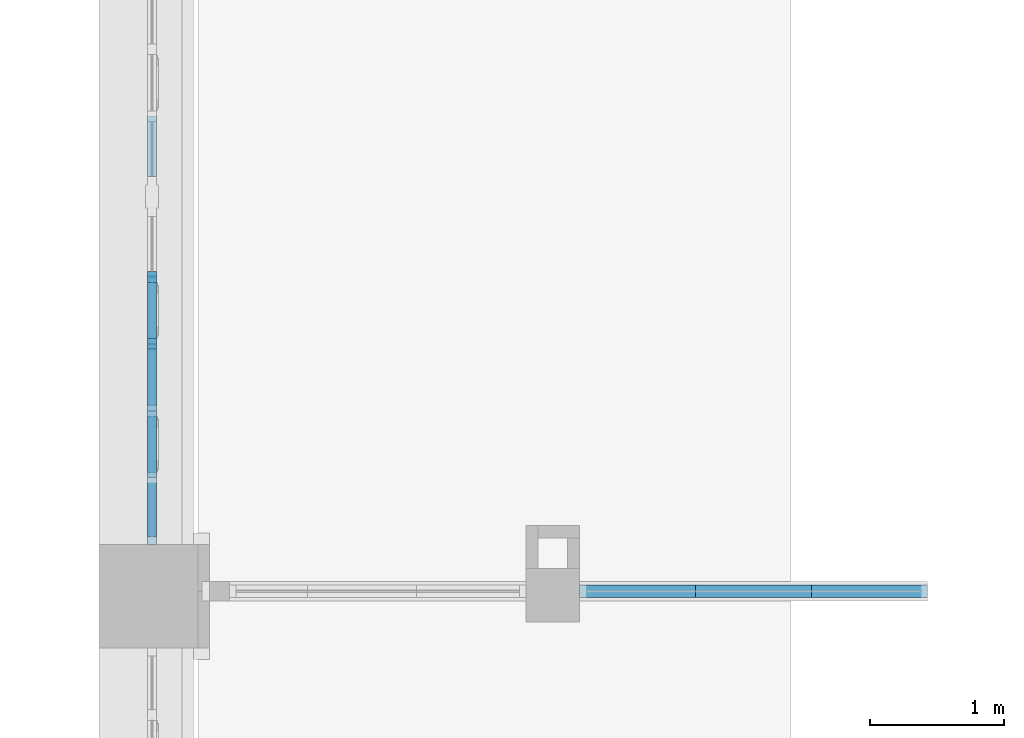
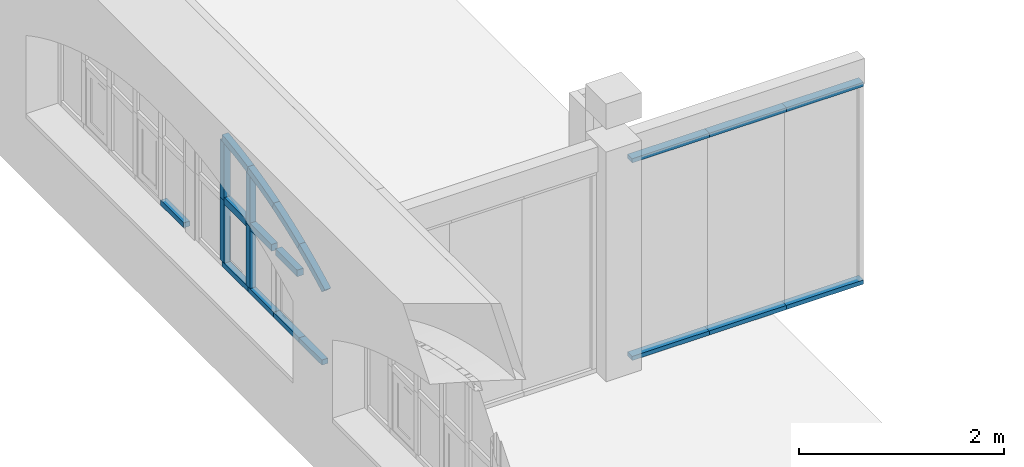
# One storey, part 7 of 32: 22 members, 2 elements without a shape of their own.
"""IFC2X3 building model written with IfcOpenShell, lengths in millimetres."""

from ifc_helpers import new_model, entity, si_unit, converted_unit, derived_unit, direction, frame, frame_2d, origin, place, context, subcontext, project, spatial, polyline, circle_curve, parameter, trimmed, segment, composite_curve, rectangle, outline, extrude, source, transform, mapped, material, type_object, type_shapes, element, aggregate, save


model = new_model("IFC2X3")

# Units and contexts
model_context = context("Model", 3, precision=0.01, world=origin(), true_north=direction((6.123031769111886e-17, 1.0)))
body_context = subcontext(model_context, "Body", "Model", "MODEL_VIEW")
ifc_project = project(units=[si_unit("LENGTHUNIT", "METRE", prefix="MILLI"), si_unit("AREAUNIT", "SQUARE_METRE"), si_unit("VOLUMEUNIT", "CUBIC_METRE"), converted_unit("PLANEANGLEUNIT", "DEGREE", entity("IfcPlaneAngleMeasure", 0.017453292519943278), si_unit("PLANEANGLEUNIT", "RADIAN"), dimensions=[0, 0, 0, 0, 0, 0, 0]), si_unit("MASSUNIT", "GRAM", prefix="KILO"), derived_unit("MASSDENSITYUNIT", [(si_unit("MASSUNIT", "GRAM", prefix="KILO"), 1), (si_unit("LENGTHUNIT", "METRE"), -3)]), derived_unit("IONCONCENTRATIONUNIT", [(si_unit("MASSUNIT", "GRAM", prefix="KILO"), 1), (si_unit("LENGTHUNIT", "METRE"), -3)]), derived_unit("MOMENTOFINERTIAUNIT", [(si_unit("LENGTHUNIT", "METRE"), 4)]), si_unit("TIMEUNIT", "SECOND"), si_unit("FREQUENCYUNIT", "HERTZ"), si_unit("THERMODYNAMICTEMPERATUREUNIT", "DEGREE_CELSIUS"), derived_unit("THERMALTRANSMITTANCEUNIT", [(si_unit("MASSUNIT", "GRAM", prefix="KILO"), 1), (si_unit("THERMODYNAMICTEMPERATUREUNIT", "KELVIN"), -1), (si_unit("TIMEUNIT", "SECOND"), -3)]), derived_unit("THERMALCONDUCTANCEUNIT", [(si_unit("MASSUNIT", "GRAM", prefix="KILO"), 1), (si_unit("THERMODYNAMICTEMPERATUREUNIT", "KELVIN"), -1), (si_unit("TIMEUNIT", "SECOND"), -3), (si_unit("LENGTHUNIT", "METRE"), 1)]), derived_unit("VOLUMETRICFLOWRATEUNIT", [(si_unit("LENGTHUNIT", "METRE", prefix="DECI"), 3), (si_unit("TIMEUNIT", "SECOND"), -1)]), derived_unit("MASSFLOWRATEUNIT", [(si_unit("MASSUNIT", "GRAM", prefix="KILO"), 1), (si_unit("TIMEUNIT", "SECOND"), -1)]), derived_unit("ROTATIONALFREQUENCYUNIT", [(si_unit("TIMEUNIT", "SECOND"), -1)]), si_unit("ELECTRICCURRENTUNIT", "AMPERE"), si_unit("ELECTRICVOLTAGEUNIT", "VOLT"), si_unit("POWERUNIT", "WATT"), si_unit("FORCEUNIT", "NEWTON", prefix="KILO"), si_unit("ILLUMINANCEUNIT", "LUX"), si_unit("LUMINOUSFLUXUNIT", "LUMEN"), si_unit("LUMINOUSINTENSITYUNIT", "CANDELA"), si_unit("ENERGYUNIT", "JOULE"), derived_unit("USERDEFINED", [(si_unit("MASSUNIT", "GRAM", prefix="KILO"), -1), (si_unit("LENGTHUNIT", "METRE"), -2), (si_unit("TIMEUNIT", "SECOND"), 3), (si_unit("LUMINOUSFLUXUNIT", "LUMEN"), 1)]), derived_unit("USERDEFINED", [(si_unit("MASSUNIT", "GRAM", prefix="KILO"), 1), (si_unit("TIMEUNIT", "SECOND"), -3), (si_unit("LENGTHUNIT", "METRE"), 3), (si_unit("ELECTRICCURRENTUNIT", "AMPERE"), -2)]), derived_unit("SOUNDPOWERUNIT", [(si_unit("MASSUNIT", "GRAM", prefix="KILO"), 1), (si_unit("TIMEUNIT", "SECOND"), -3), (si_unit("LENGTHUNIT", "METRE"), 2)]), derived_unit("SOUNDPRESSUREUNIT", [(si_unit("MASSUNIT", "GRAM", prefix="KILO"), 1), (si_unit("LENGTHUNIT", "METRE"), -1), (si_unit("TIMEUNIT", "SECOND"), -2)]), derived_unit("LINEARVELOCITYUNIT", [(si_unit("LENGTHUNIT", "METRE"), 1), (si_unit("TIMEUNIT", "SECOND"), -1)]), si_unit("PRESSUREUNIT", "PASCAL"), derived_unit("USERDEFINED", [(si_unit("MASSUNIT", "GRAM", prefix="KILO"), 1), (si_unit("LENGTHUNIT", "METRE"), -2), (si_unit("TIMEUNIT", "SECOND"), -2)]), derived_unit("LINEARFORCEUNIT", [(si_unit("MASSUNIT", "GRAM", prefix="KILO"), 1), (si_unit("TIMEUNIT", "SECOND"), -2)]), derived_unit("PLANARFORCEUNIT", [(si_unit("MASSUNIT", "GRAM", prefix="KILO"), 1), (si_unit("LENGTHUNIT", "METRE"), -1), (si_unit("TIMEUNIT", "SECOND"), -2)]), derived_unit("SPECIFICHEATCAPACITYUNIT", [(si_unit("THERMODYNAMICTEMPERATUREUNIT", "KELVIN"), -1), (si_unit("LENGTHUNIT", "METRE"), 2), (si_unit("TIMEUNIT", "SECOND"), -2)]), derived_unit("HEATFLUXDENSITYUNIT", [(si_unit("MASSUNIT", "GRAM", prefix="KILO"), 1), (si_unit("TIMEUNIT", "SECOND"), -3)]), derived_unit("HEATINGVALUEUNIT", [(si_unit("LENGTHUNIT", "METRE"), 2), (si_unit("TIMEUNIT", "SECOND"), -2)]), derived_unit("VAPORPERMEABILITYUNIT", [(si_unit("LENGTHUNIT", "METRE"), -1), (si_unit("TIMEUNIT", "SECOND"), 1)]), derived_unit("DYNAMICVISCOSITYUNIT", [(si_unit("MASSUNIT", "GRAM", prefix="KILO"), 1), (si_unit("TIMEUNIT", "SECOND"), -1), (si_unit("LENGTHUNIT", "METRE"), -1)]), derived_unit("THERMALEXPANSIONCOEFFICIENTUNIT", [(si_unit("THERMODYNAMICTEMPERATUREUNIT", "KELVIN"), -1)]), derived_unit("MODULUSOFELASTICITYUNIT", [(si_unit("MASSUNIT", "GRAM", prefix="KILO"), 1), (si_unit("LENGTHUNIT", "METRE"), -1), (si_unit("TIMEUNIT", "SECOND"), -2)]), derived_unit("ISOTHERMALMOISTURECAPACITYUNIT", [(si_unit("MASSUNIT", "GRAM", prefix="KILO"), -1), (si_unit("LENGTHUNIT", "METRE"), 3)]), derived_unit("MOISTUREDIFFUSIVITYUNIT", [(si_unit("TIMEUNIT", "SECOND"), -1), (si_unit("LENGTHUNIT", "METRE"), 2)]), derived_unit("MASSPERLENGTHUNIT", [(si_unit("MASSUNIT", "GRAM", prefix="KILO"), 1), (si_unit("LENGTHUNIT", "METRE"), -1)]), derived_unit("THERMALRESISTANCEUNIT", [(si_unit("MASSUNIT", "GRAM", prefix="KILO"), -1), (si_unit("TIMEUNIT", "SECOND"), 3), (si_unit("THERMODYNAMICTEMPERATUREUNIT", "KELVIN"), 1)]), derived_unit("ACCELERATIONUNIT", [(si_unit("LENGTHUNIT", "METRE"), 1), (si_unit("TIMEUNIT", "SECOND"), -2)]), derived_unit("ANGULARVELOCITYUNIT", [(si_unit("TIMEUNIT", "SECOND"), -1), (si_unit("PLANEANGLEUNIT", "RADIAN"), 1)]), derived_unit("LINEARSTIFFNESSUNIT", [(si_unit("MASSUNIT", "GRAM", prefix="KILO"), 1), (si_unit("TIMEUNIT", "SECOND"), -2)]), derived_unit("WARPINGCONSTANTUNIT", [(si_unit("LENGTHUNIT", "METRE"), 6)]), derived_unit("LINEARMOMENTUNIT", [(si_unit("MASSUNIT", "GRAM", prefix="KILO"), 1), (si_unit("LENGTHUNIT", "METRE"), 1), (si_unit("TIMEUNIT", "SECOND"), -2)]), derived_unit("TORQUEUNIT", [(si_unit("MASSUNIT", "GRAM", prefix="KILO"), 1), (si_unit("LENGTHUNIT", "METRE"), 2), (si_unit("TIMEUNIT", "SECOND"), -2)])], contexts=[model_context])

# Site, building, storey
site_placement = place(None, origin())
site = spatial("IfcSite", under=ifc_project, at=site_placement, Name="Default", CompositionType="ELEMENT")
building_placement = place(site_placement, origin())
building = spatial("IfcBuilding", under=site, at=building_placement, Name="Eesti Rahvusraamatukogu hoone renoveerimise projekteerimistööd", CompositionType="ELEMENT")
storey_placement = place(building_placement, frame((0.0, 0.0, 4950.000000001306)))
storey = spatial("IfcBuildingStorey", under=building, at=storey_placement, Name="2. korrus", CompositionType="ELEMENT", Elevation=4950.000000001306)

# Curtain wall, members
curtain_wall_type_1 = type_object("IfcCurtainWallType", Name="Curtain Wall:VLS Klaasvahesein profiilita 38db", PredefinedType="NOTDEFINED")
curtain_wall_1_placement = place(storey_placement, frame((0.0, 0.0, -4950.000000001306)))
curtain_wall_1 = element("IfcCurtainWall", 1, at=curtain_wall_1_placement, inside=storey, type_object=curtain_wall_type_1, Name="Curtain Wall:VLS Klaasvahesein profiilita 38db", ObjectType="Curtain Wall:VLS Klaasvahesein profiilita 38db")
ifc_material_1 = material(Name="Aluminum")
member_type_1 = type_object("IfcMemberType", Name="Rectangular Mullion:50mm x 92mm", PredefinedType="MULLION", material=ifc_material_1)
shared_shape_1 = source(origin(), body_context, "Body", "SweptSolid", [
    extrude(rectangle(XDim=50.0, YDim=92.0, at=frame_2d((0.0, 3.552713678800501e-15), x_axis=(1.0, 0.0))), frame((-25.0, 0.0, -866.6666667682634), z_axis=(0.0, 0.0, 1.0), x_axis=(-1.0, 0.0, 0.0)), (0.0, 0.0, 1.0), 866.6666667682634),
])
type_shapes(member_type_1, [shared_shape_1])
member_1_placement = place(curtain_wall_1_placement, frame((-30590.0, 12420.0, 7350.0), z_axis=(1.0, 0.0, 0.0), x_axis=(0.0, 0.0, 1.0)))
member_1 = element("IfcMember", 2, at=member_1_placement, type_object=member_type_1, material=ifc_material_1, Name="Rectangular Mullion:50mm x 92mm", ObjectType="Rectangular Mullion:50mm x 92mm", context=body_context, shape_type="MappedRepresentation", body=[
    mapped(shared_shape_1, transform((0.0, 0.0, 0.0), scale=1.0)),
])
member_type_2 = type_object("IfcMemberType", Name="Rectangular Mullion:50mm x 92mm", PredefinedType="MULLION", material=ifc_material_1)
shared_shape_2 = source(origin(), body_context, "Body", "SweptSolid", [
    extrude(rectangle(XDim=50.0, YDim=92.0, at=frame_2d((0.0, 3.552713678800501e-15), x_axis=(1.0, 0.0))), frame((-25.0, 0.0, -866.6666667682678), z_axis=(0.0, 0.0, 1.0), x_axis=(-1.0, 0.0, 0.0)), (0.0, 0.0, 1.0), 866.6666667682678),
])
type_shapes(member_type_2, [shared_shape_2])
member_2_placement = place(curtain_wall_1_placement, frame((-32323.333333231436, 12420.0, 7350.0), z_axis=(1.0, 0.0, 0.0), x_axis=(0.0, 0.0, 1.0)))
member_2 = element("IfcMember", 3, at=member_2_placement, type_object=member_type_2, material=ifc_material_1, Name="Rectangular Mullion:50mm x 92mm", ObjectType="Rectangular Mullion:50mm x 92mm", context=body_context, shape_type="MappedRepresentation", body=[
    mapped(shared_shape_2, transform((0.0, 0.0, 0.0), scale=1.0)),
])
member_type_3 = type_object("IfcMemberType", Name="Rectangular Mullion:50mm x 92mm", PredefinedType="MULLION", material=ifc_material_1)
shared_shape_3 = source(origin(), body_context, "Body", "SweptSolid", [
    extrude(rectangle(XDim=50.0, YDim=92.0, at=frame_2d((0.0, 3.552713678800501e-15), x_axis=(1.0, 0.0))), frame((-25.0, 0.0, -866.6666664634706), z_axis=(0.0, 0.0, 1.0), x_axis=(-1.0, 0.0, 0.0)), (0.0, 0.0, 1.0), 866.6666664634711),
])
type_shapes(member_type_3, [shared_shape_3])
member_3_placement = place(curtain_wall_1_placement, frame((-31456.666666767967, 12420.0, 7350.0), z_axis=(1.0, 0.0, 0.0), x_axis=(0.0, 0.0, 1.0)))
member_3 = element("IfcMember", 4, at=member_3_placement, type_object=member_type_3, material=ifc_material_1, Name="Rectangular Mullion:50mm x 92mm", ObjectType="Rectangular Mullion:50mm x 92mm", context=body_context, shape_type="MappedRepresentation", body=[
    mapped(shared_shape_3, transform((0.0, 0.0, 0.0), scale=1.0)),
])
member_type_4 = type_object("IfcMemberType", Name="Rectangular Mullion:50mm x 92mm", PredefinedType="MULLION", material=ifc_material_1)
shared_shape_4 = source(origin(), body_context, "Body", "SweptSolid", [
    extrude(rectangle(XDim=50.0, YDim=92.0, at=frame_2d((0.0, 3.552713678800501e-15), x_axis=(1.0, 0.0))), frame((-25.0, 0.0, -866.6666667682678), z_axis=(0.0, 0.0, 1.0), x_axis=(-1.0, 0.0, 0.0)), (0.0, 0.0, 1.0), 866.6666667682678),
])
type_shapes(member_type_4, [shared_shape_4])
member_4_placement = place(curtain_wall_1_placement, frame((-33190.0, 12420.0, 4950.0), z_axis=(-1.0, 0.0, 0.0), x_axis=(0.0, 0.0, -1.0)))
member_4 = element("IfcMember", 5, at=member_4_placement, type_object=member_type_4, material=ifc_material_1, Name="Rectangular Mullion:50mm x 92mm", ObjectType="Rectangular Mullion:50mm x 92mm", context=body_context, shape_type="MappedRepresentation", body=[
    mapped(shared_shape_4, transform((0.0, 0.0, 0.0), scale=1.0)),
])
member_type_5 = type_object("IfcMemberType", Name="Rectangular Mullion:50mm x 92mm", PredefinedType="MULLION", material=ifc_material_1)
shared_shape_5 = source(origin(), body_context, "Body", "SweptSolid", [
    extrude(rectangle(XDim=50.0, YDim=92.0, at=frame_2d((0.0, 3.552713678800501e-15), x_axis=(1.0, 0.0))), frame((-25.0, 0.0, -866.6666664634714), z_axis=(0.0, 0.0, 1.0), x_axis=(-1.0, 0.0, 0.0)), (0.0, 0.0, 1.0), 866.6666664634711),
])
type_shapes(member_type_5, [shared_shape_5])
member_5_placement = place(curtain_wall_1_placement, frame((-32323.333333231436, 12420.0, 4950.0), z_axis=(-1.0, 0.0, 0.0), x_axis=(0.0, 0.0, -1.0)))
member_5 = element("IfcMember", 6, at=member_5_placement, type_object=member_type_5, material=ifc_material_1, Name="Rectangular Mullion:50mm x 92mm", ObjectType="Rectangular Mullion:50mm x 92mm", context=body_context, shape_type="MappedRepresentation", body=[
    mapped(shared_shape_5, transform((0.0, 0.0, 0.0), scale=1.0)),
])
member_type_6 = type_object("IfcMemberType", Name="Rectangular Mullion:50mm x 92mm", PredefinedType="MULLION", material=ifc_material_1)
shared_shape_6 = source(origin(), body_context, "Body", "SweptSolid", [
    extrude(rectangle(XDim=50.0, YDim=92.0, at=frame_2d((0.0, 3.552713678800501e-15), x_axis=(1.0, 0.0))), frame((-25.0, 0.0, -866.6666667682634), z_axis=(0.0, 0.0, 1.0), x_axis=(-1.0, 0.0, 0.0)), (0.0, 0.0, 1.0), 866.6666667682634),
])
type_shapes(member_type_6, [shared_shape_6])
member_6_placement = place(curtain_wall_1_placement, frame((-31456.666666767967, 12420.0, 4950.0), z_axis=(-1.0, 0.0, 0.0), x_axis=(0.0, 0.0, -1.0)))
member_6 = element("IfcMember", 7, at=member_6_placement, type_object=member_type_6, material=ifc_material_1, Name="Rectangular Mullion:50mm x 92mm", ObjectType="Rectangular Mullion:50mm x 92mm", context=body_context, shape_type="MappedRepresentation", body=[
    mapped(shared_shape_6, transform((0.0, 0.0, 0.0), scale=1.0)),
])
aggregate(curtain_wall_1, [member_1, member_2, member_3, member_4, member_5, member_6])

curtain_wall_type_2 = type_object("IfcCurtainWallType", Name="Curtain Wall:Ak-04", PredefinedType="NOTDEFINED")
curtain_wall_2_placement = place(storey_placement, frame((0.0, 0.0, -4950.000000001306)))
curtain_wall_2 = element("IfcCurtainWall", 8, at=curtain_wall_2_placement, inside=storey, type_object=curtain_wall_type_2, Name="Curtain Wall:Ak-04", ObjectType="Curtain Wall:Ak-04")
ifc_material_2 = material(Name="LUMION_dark steel window frames")
member_type_7 = type_object("IfcMemberType", Name="Rectangular Mullion:NEW 80x70mm", PredefinedType="MULLION", material=ifc_material_2)
shared_shape_7 = source(origin(), body_context, "Body", "SweptSolid", [
    extrude(rectangle(XDim=80.0, YDim=70.0, at=frame_2d((0.0, -3.552713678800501e-15), x_axis=(1.0, 0.0))), frame((0.0, 0.0, -420.0), z_axis=(0.0, 0.0, 1.0), x_axis=(-1.0, 0.0, 0.0)), (0.0, 0.0, 1.0), 419.999999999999),
])
type_shapes(member_type_7, [shared_shape_7])
member_7_placement = place(curtain_wall_2_placement, frame((-36383.999999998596, 14308.6955919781, 6550.000000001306), z_axis=(0.0, -1.0, 0.0), x_axis=(0.0, 0.0, 1.0)))
member_7 = element("IfcMember", 9, at=member_7_placement, type_object=member_type_7, material=ifc_material_2, Name="Rectangular Mullion:NEW 80x70mm", ObjectType="Rectangular Mullion:NEW 80x70mm", context=body_context, shape_type="MappedRepresentation", body=[
    mapped(shared_shape_7, transform((0.0, 0.0, 0.0), scale=1.0)),
])
member_8_placement = place(curtain_wall_2_placement, frame((-36383.9999999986, 13808.695591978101, 6550.000000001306), z_axis=(0.0, -1.0, 0.0), x_axis=(0.0, 0.0, 1.0)))
member_8 = element("IfcMember", 10, at=member_8_placement, type_object=member_type_7, material=ifc_material_2, Name="Rectangular Mullion:NEW 80x70mm", ObjectType="Rectangular Mullion:NEW 80x70mm", context=body_context, shape_type="MappedRepresentation", body=[
    mapped(shared_shape_7, transform((0.0, 0.0, 0.0), scale=1.0)),
])
member_9_placement = place(curtain_wall_2_placement, frame((-36383.9999999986, 13308.695591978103, 6550.000000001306), z_axis=(0.0, -1.0, 0.0), x_axis=(0.0, 0.0, 1.0)))
member_9 = element("IfcMember", 11, at=member_9_placement, type_object=member_type_7, material=ifc_material_2, Name="Rectangular Mullion:NEW 80x70mm", ObjectType="Rectangular Mullion:NEW 80x70mm", context=body_context, shape_type="MappedRepresentation", body=[
    mapped(shared_shape_7, transform((0.0, 0.0, 0.0), scale=1.0)),
])
member_type_8 = type_object("IfcMemberType", Name="Rectangular Mullion:NEW 60x70mm", PredefinedType="MULLION", material=ifc_material_2)
shared_shape_8 = source(origin(), body_context, "Body", "SweptSolid", [
    extrude(rectangle(XDim=60.0, YDim=70.0, at=frame_2d((0.0, 3.552713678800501e-15), x_axis=(1.0, 0.0))), frame((-30.0, 0.0, -500.0), z_axis=(0.0, 0.0, 1.0), x_axis=(-1.0, 0.0, 0.0)), (0.0, 0.0, 1.0), 499.999999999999),
])
type_shapes(member_type_8, [shared_shape_8])
member_10_placement = place(curtain_wall_2_placement, frame((-36383.999999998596, 14768.6955919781, 5750.000000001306), z_axis=(0.0, 1.0, 0.0), x_axis=(0.0, 0.0, -1.0)))
member_10 = element("IfcMember", 12, at=member_10_placement, type_object=member_type_8, material=ifc_material_2, Name="Rectangular Mullion:NEW 60x70mm", ObjectType="Rectangular Mullion:NEW 60x70mm", context=body_context, shape_type="MappedRepresentation", body=[
    mapped(shared_shape_8, transform((0.0, 0.0, 0.0), scale=1.0)),
])
member_11_placement = place(curtain_wall_2_placement, frame((-36383.999999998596, 14268.695591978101, 5750.000000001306), z_axis=(0.0, 1.0, 0.0), x_axis=(0.0, 0.0, -1.0)))
member_11 = element("IfcMember", 13, at=member_11_placement, type_object=member_type_8, material=ifc_material_2, Name="Rectangular Mullion:NEW 60x70mm", ObjectType="Rectangular Mullion:NEW 60x70mm", context=body_context, shape_type="MappedRepresentation", body=[
    mapped(shared_shape_8, transform((0.0, 0.0, 0.0), scale=1.0)),
])
member_12_placement = place(curtain_wall_2_placement, frame((-36383.9999999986, 13768.695591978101, 5750.000000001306), z_axis=(0.0, 1.0, 0.0), x_axis=(0.0, 0.0, -1.0)))
member_12 = element("IfcMember", 14, at=member_12_placement, type_object=member_type_8, material=ifc_material_2, Name="Rectangular Mullion:NEW 60x70mm", ObjectType="Rectangular Mullion:NEW 60x70mm", context=body_context, shape_type="MappedRepresentation", body=[
    mapped(shared_shape_8, transform((0.0, 0.0, 0.0), scale=1.0)),
])
member_type_9 = type_object("IfcMemberType", Name="Rectangular Mullion:NEW 60x70mm", PredefinedType="MULLION", material=ifc_material_2)
shared_shape_9 = source(origin(), body_context, "Body", "SweptSolid", [
    extrude(rectangle(XDim=60.0, YDim=70.0, at=frame_2d((0.0, 3.552713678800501e-15), x_axis=(1.0, 0.0))), frame((-30.0, 0.0, -450.0), z_axis=(0.0, 0.0, 1.0), x_axis=(-1.0, 0.0, 0.0)), (0.0, 0.0, 1.0), 449.99999999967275),
])
type_shapes(member_type_9, [shared_shape_9])
member_13_placement = place(curtain_wall_2_placement, frame((-36383.999999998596, 15968.695591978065, 5750.000000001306), z_axis=(0.0, 1.0, 0.0), x_axis=(0.0, 0.0, -1.0)))
member_13 = element("IfcMember", 15, at=member_13_placement, type_object=member_type_9, material=ifc_material_2, Name="Rectangular Mullion:NEW 60x70mm", ObjectType="Rectangular Mullion:NEW 60x70mm", context=body_context, shape_type="MappedRepresentation", body=[
    mapped(shared_shape_9, transform((0.0, 0.0, 0.0), scale=1.0)),
])
member_type_10 = type_object("IfcMemberType", Name="Rectangular Mullion:NEW 60x70mm", PredefinedType="MULLION", material=ifc_material_2)
shared_shape_10 = source(origin(), body_context, "Body", "SweptSolid", [
    extrude(rectangle(XDim=60.0, YDim=70.0, at=frame_2d((0.0, 3.552713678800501e-15), x_axis=(1.0, 0.0))), frame((-30.0, 0.0, -440.0), z_axis=(0.0, 0.0, 1.0), x_axis=(-1.0, 0.0, 0.0)), (0.0, 0.0, 1.0), 439.9999999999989),
])
type_shapes(member_type_10, [shared_shape_10])
member_14_placement = place(curtain_wall_2_placement, frame((-36383.9999999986, 13268.695591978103, 5750.000000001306), z_axis=(0.0, 1.0, 0.0), x_axis=(0.0, 0.0, -1.0)))
member_14 = element("IfcMember", 16, at=member_14_placement, type_object=member_type_10, material=ifc_material_2, Name="Rectangular Mullion:NEW 60x70mm", ObjectType="Rectangular Mullion:NEW 60x70mm", context=body_context, shape_type="MappedRepresentation", body=[
    mapped(shared_shape_10, transform((0.0, 0.0, 0.0), scale=1.0)),
])
member_type_11 = type_object("IfcMemberType", Name="Rectangular Mullion:NEW 80x70mm", PredefinedType="MULLION", material=ifc_material_2)
shared_shape_11 = source(origin(), body_context, "Body", "SweptSolid", [
    extrude(rectangle(XDim=80.0, YDim=70.0, at=frame_2d((0.0, -3.552713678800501e-15), x_axis=(1.0, 0.0))), frame((0.0, 0.0, -740.0), z_axis=(0.0, 0.0, 1.0), x_axis=(-1.0, 0.0, 0.0)), (0.0, 0.0, 1.0), 740.0),
])
type_shapes(member_type_11, [shared_shape_11])
member_15_placement = place(curtain_wall_2_placement, frame((-36383.999999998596, 14268.695591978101, 5810.000000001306), z_axis=(0.0, 0.0, -1.0), x_axis=(0.0, -1.0, 0.0)))
member_15 = element("IfcMember", 17, at=member_15_placement, type_object=member_type_11, material=ifc_material_2, Name="Rectangular Mullion:NEW 80x70mm", ObjectType="Rectangular Mullion:NEW 80x70mm", context=body_context, shape_type="MappedRepresentation", body=[
    mapped(shared_shape_11, transform((0.0, 0.0, 0.0), scale=1.0)),
])
member_16_placement = place(curtain_wall_2_placement, frame((-36383.999999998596, 14768.6955919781, 5810.000000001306), z_axis=(0.0, 0.0, -1.0), x_axis=(0.0, -1.0, 0.0)))
member_16 = element("IfcMember", 18, at=member_16_placement, type_object=member_type_11, material=ifc_material_2, Name="Rectangular Mullion:NEW 80x70mm", ObjectType="Rectangular Mullion:NEW 80x70mm", context=body_context, shape_type="MappedRepresentation", body=[
    mapped(shared_shape_11, transform((0.0, 0.0, 0.0), scale=1.0)),
])
member_type_12 = type_object("IfcMemberType", Name="Rectangular Mullion:NEW 80x70mm", PredefinedType="MULLION", material=ifc_material_2)
shared_shape_12 = source(origin(), body_context, "Body", "SweptSolid", [
    extrude(outline(composite_curve([segment(polyline([(-363.37678895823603, -43.27151160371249), (232.56220317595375, -43.27151160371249)]), True, "CONTINUOUS"), segment(trimmed(circle_curve(frame_2d((-4943.152908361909, 1096.728488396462), x_axis=(0.9547498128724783, -0.29741014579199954)), 5299.776119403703), [parameter(4.880521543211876)], [parameter(5.5036722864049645)], True, "PARAMETER"), True, "CONTINUOUS"), segment(trimmed(circle_curve(frame_2d((-4943.152908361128, 1096.72848839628), x_axis=(0.9788729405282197, -0.20446947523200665)), 5299.7761194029), [parameter(0.0)], [parameter(0.2609913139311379)], True, "PARAMETER"), True, "CONTINUOUS"), segment(polyline([(249.536848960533, 36.728488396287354), (-363.37678895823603, 36.72848839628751)]), True, "CONTINUOUS"), segment(polyline([(-363.37678895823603, 36.72848839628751), (-363.37678895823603, -43.27151160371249)]), True, "CONTINUOUS")], self_intersect=False)), frame((-3.271511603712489, -35.0, -363.37678895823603), z_axis=(0.0, 1.0, 0.0), x_axis=(0.0, 0.0, -1.0)), (0.0, 0.0, 1.0), 70.00000000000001),
])
type_shapes(member_type_12, [shared_shape_12])
member_17_placement = place(curtain_wall_2_placement, frame((-36383.999999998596, 14268.695591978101, 6550.000000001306), z_axis=(0.0, 0.0, -1.0), x_axis=(0.0, -1.0, 0.0)))
member_17 = element("IfcMember", 19, at=member_17_placement, type_object=member_type_12, material=ifc_material_2, Name="Rectangular Mullion:NEW 80x70mm", ObjectType="Rectangular Mullion:NEW 80x70mm", context=body_context, shape_type="MappedRepresentation", body=[
    mapped(shared_shape_12, transform((0.0, 0.0, 0.0), scale=1.0)),
])
member_type_13 = type_object("IfcMemberType", Name="Rectangular Mullion:NEW 80x70mm", PredefinedType="MULLION", material=ifc_material_2)
shared_shape_13 = source(origin(), body_context, "Body", "SweptSolid", [
    extrude(outline(composite_curve([segment(polyline([(-411.69630029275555, -41.78446087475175), (269.51863863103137, -41.78446087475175)]), True, "CONTINUOUS"), segment(trimmed(circle_curve(frame_2d((-4991.472419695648, 598.2155391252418), x_axis=(0.9788729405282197, -0.20446947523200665)), 5299.7761194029), [parameter(4.862488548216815)], [parameter(5.39499243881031)], True, "PARAMETER"), True, "CONTINUOUS"), segment(trimmed(circle_curve(frame_2d((-4991.472419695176, 598.2155391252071), x_axis=(0.9937612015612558, -0.11152880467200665)), 5299.776119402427), [parameter(0.0)], [parameter(0.3379797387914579)], True, "PARAMETER"), True, "CONTINUOUS"), segment(polyline([(278.63449722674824, 38.21553912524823), (-411.69630029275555, 38.21553912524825)]), True, "CONTINUOUS"), segment(polyline([(-411.69630029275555, 38.21553912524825), (-411.69630029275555, -41.78446087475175)]), True, "CONTINUOUS")], self_intersect=False)), frame((-1.7844608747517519, -35.0, -411.69630029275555), z_axis=(0.0, 1.0, 0.0), x_axis=(0.0, 0.0, -1.0)), (0.0, 0.0, 1.0), 69.99999999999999),
])
type_shapes(member_type_13, [shared_shape_13])
member_18_placement = place(curtain_wall_2_placement, frame((-36383.999999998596, 14768.6955919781, 6550.000000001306), z_axis=(0.0, 0.0, -1.0), x_axis=(0.0, -1.0, 0.0)))
member_18 = element("IfcMember", 20, at=member_18_placement, type_object=member_type_13, material=ifc_material_2, Name="Rectangular Mullion:NEW 80x70mm", ObjectType="Rectangular Mullion:NEW 80x70mm", context=body_context, shape_type="MappedRepresentation", body=[
    mapped(shared_shape_13, transform((0.0, 0.0, 0.0), scale=1.0)),
])
member_type_14 = type_object("IfcMemberType", Name="Rectangular Mullion:NEW 80x70mm", PredefinedType="MULLION", material=ifc_material_2)
shared_shape_14 = source(origin(), body_context, "Body", "SweptSolid", [
    extrude(outline(composite_curve([segment(polyline([(-51.82710825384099, -251.02635265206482), (28.172891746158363, -251.02635265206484)]), True, "CONTINUOUS"), segment(trimmed(circle_curve(frame_2d((5327.949011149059, -251.02635265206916), x_axis=(-0.995570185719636, 0.09402130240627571)), 5299.7761194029), [parameter(3.5622212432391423e-13)], [parameter(5.39499243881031)], True, "PARAMETER"), False, "CONTINUOUS"), segment(polyline([(51.64991568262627, 247.26550055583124), (-27.995699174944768, 254.78720474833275)]), True, "CONTINUOUS"), segment(trimmed(circle_curve(frame_2d((5327.949011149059, -251.02635265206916), x_axis=(-0.995570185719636, 0.09402130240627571)), 5379.7761194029), [parameter(3.5622212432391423e-13)], [parameter(5.39499243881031)], True, "PARAMETER"), True, "CONTINUOUS")], self_intersect=False)), frame((-51.827108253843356, -35.0, -251.02635265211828), z_axis=(0.0, 1.0, 0.0), x_axis=(-0.9955701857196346, 0.0, 0.09402130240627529)), (0.0, 0.0, 1.0), 70.00000000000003),
])
type_shapes(member_type_14, [shared_shape_14])
member_19_placement = place(curtain_wall_2_placement, frame((-36383.999999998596, 14268.695591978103, 7236.341149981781), z_axis=(0.0, -0.9788729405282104, -0.20446947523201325), x_axis=(0.0, -0.20446947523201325, 0.9788729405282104)))
member_19 = element("IfcMember", 21, at=member_19_placement, type_object=member_type_14, material=ifc_material_2, Name="Rectangular Mullion:NEW 80x70mm", ObjectType="Rectangular Mullion:NEW 80x70mm", context=body_context, shape_type="MappedRepresentation", body=[
    mapped(shared_shape_14, transform((0.0, 0.0, 0.0), scale=1.0)),
])
member_type_15 = type_object("IfcMemberType", Name="Rectangular Mullion:NEW 80x70mm", PredefinedType="MULLION", material=ifc_material_2)
shared_shape_15 = source(origin(), body_context, "Body", "SweptSolid", [
    extrude(outline(composite_curve([segment(polyline([(-52.30804182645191, -256.0677643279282), (27.691958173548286, -256.0677643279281)]), True, "CONTINUOUS"), segment(trimmed(circle_curve(frame_2d((5327.46807757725, -256.0677643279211), x_axis=(-0.9953900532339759, 0.09590955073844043)), 5299.776119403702), [parameter(3.5622212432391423e-13)], [parameter(5.5036722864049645)], True, "PARAMETER"), False, "CONTINUOUS"), segment(polyline([(52.12364395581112, 252.2313822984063), (-27.507560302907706, 259.9041463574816)]), True, "CONTINUOUS"), segment(trimmed(circle_curve(frame_2d((5327.46807757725, -256.0677643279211), x_axis=(-0.9953900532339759, 0.09590955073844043)), 5379.776119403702), [parameter(3.5622212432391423e-13)], [parameter(5.5036722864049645)], True, "PARAMETER"), True, "CONTINUOUS")], self_intersect=False)), frame((-52.30804182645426, -35.0, -256.06776432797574), z_axis=(0.0, 1.0, 0.0), x_axis=(-0.9953900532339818, 0.0, 0.09590955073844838)), (0.0, 0.0, 1.0), 69.99999999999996),
])
type_shapes(member_type_15, [shared_shape_15])
member_20_placement = place(curtain_wall_2_placement, frame((-36383.9999999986, 13768.695591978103, 7106.564123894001), z_axis=(0.0, -0.9547498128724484, -0.29741014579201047), x_axis=(0.0, -0.29741014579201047, 0.9547498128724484)))
member_20 = element("IfcMember", 22, at=member_20_placement, type_object=member_type_15, material=ifc_material_2, Name="Rectangular Mullion:NEW 80x70mm", ObjectType="Rectangular Mullion:NEW 80x70mm", context=body_context, shape_type="MappedRepresentation", body=[
    mapped(shared_shape_15, transform((0.0, 0.0, 0.0), scale=1.0)),
])
member_type_16 = type_object("IfcMemberType", Name="Rectangular Mullion:NEW 80x70mm", PredefinedType="MULLION", material=ifc_material_2)
shared_shape_16 = source(origin(), body_context, "Body", "SweptSolid", [
    extrude(outline(composite_curve([segment(polyline([(-53.081999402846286, -263.9769105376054), (26.918000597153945, -263.9769105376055)]), True, "CONTINUOUS"), segment(trimmed(circle_curve(frame_2d((5326.694120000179, -263.97691053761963), x_axis=(-0.9951001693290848, 0.09887190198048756)), 5299.776119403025), [parameter(3.5622212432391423e-13)], [parameter(5.674213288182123)], True, "PARAMETER"), False, "CONTINUOUS"), segment(polyline([(52.886006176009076, 260.0220344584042), (-26.722007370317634, 267.9317866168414)]), True, "CONTINUOUS"), segment(trimmed(circle_curve(frame_2d((5326.694120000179, -263.97691053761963), x_axis=(-0.9951001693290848, 0.09887190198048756)), 5379.776119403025), [parameter(3.5622212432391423e-13)], [parameter(5.674213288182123)], True, "PARAMETER"), True, "CONTINUOUS")], self_intersect=False)), frame((-53.0819994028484, -35.0, -263.97691053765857), z_axis=(0.0, 1.0, 0.0), x_axis=(-0.9951001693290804, 0.0, 0.09887190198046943)), (0.0, 0.0, 1.0), 69.99999999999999),
])
type_shapes(member_type_16, [shared_shape_16])
member_21_placement = place(curtain_wall_2_placement, frame((-36383.9999999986, 13268.695591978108, 6923.201883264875), z_axis=(0.0, -0.9206661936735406, -0.3903508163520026), x_axis=(0.0, -0.3903508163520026, 0.9206661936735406)))
member_21 = element("IfcMember", 23, at=member_21_placement, type_object=member_type_16, material=ifc_material_2, Name="Rectangular Mullion:NEW 80x70mm", ObjectType="Rectangular Mullion:NEW 80x70mm", context=body_context, shape_type="MappedRepresentation", body=[
    mapped(shared_shape_16, transform((0.0, 0.0, 0.0), scale=1.0)),
])
member_type_17 = type_object("IfcMemberType", Name="Rectangular Mullion:NEW 80x70mm", PredefinedType="MULLION", material=ifc_material_2)
shared_shape_17 = source(origin(), body_context, "Body", "SweptSolid", [
    extrude(outline(composite_curve([segment(polyline([(-53.643988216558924, -269.50314648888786), (26.35601178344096, -269.503146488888)]), True, "CONTINUOUS"), segment(trimmed(circle_curve(frame_2d((5326.132131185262, -269.5031464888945), x_axis=(-0.9946591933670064, 0.10321380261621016)), 5299.77611940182), [parameter(0.263670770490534)], [parameter(5.924265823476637)], True, "PARAMETER"), False, "CONTINUOUS"), segment(polyline([(52.19962066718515, 253.24228895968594), (-24.911644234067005, 285.7640040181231)]), True, "CONTINUOUS"), segment(trimmed(circle_curve(frame_2d((5326.132131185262, -269.5031464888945), x_axis=(-0.9946591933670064, 0.10321380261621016)), 5379.77611940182), [parameter(3.5622212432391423e-13)], [parameter(5.924265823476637)], True, "PARAMETER"), True, "CONTINUOUS")], self_intersect=False)), frame((-54.273385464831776, -35.0, -281.6665681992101), z_axis=(0.0, 1.0, 0.0), x_axis=(-0.9946591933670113, 0.0, 0.1032138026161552)), (0.0, 0.0, 1.0), 69.99999999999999),
])
type_shapes(member_type_17, [shared_shape_17])
member_22_placement = place(curtain_wall_2_placement, frame((-36383.9999999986, 12768.695591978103, 6680.000000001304), z_axis=(0.0, -0.8754595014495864, -0.4832914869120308), x_axis=(0.0, -0.4832914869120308, 0.8754595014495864)))
member_22 = element("IfcMember", 24, at=member_22_placement, type_object=member_type_17, material=ifc_material_2, Name="Rectangular Mullion:NEW 80x70mm", ObjectType="Rectangular Mullion:NEW 80x70mm", context=body_context, shape_type="MappedRepresentation", body=[
    mapped(shared_shape_17, transform((0.0, 0.0, 0.0), scale=1.0)),
])
aggregate(curtain_wall_2, [member_17, member_15, member_18, member_16, member_13, member_10, member_11, member_12, member_14, member_19, member_20, member_21, member_22, member_7, member_8, member_9])

save(model, "model.ifc")
